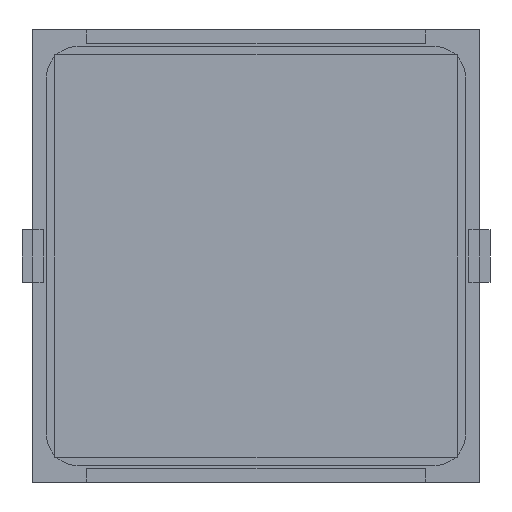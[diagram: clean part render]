
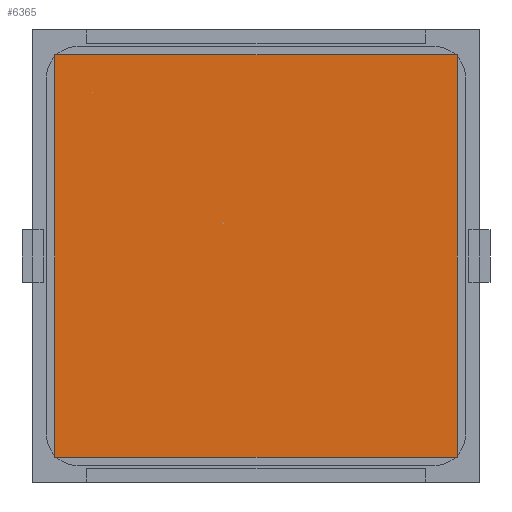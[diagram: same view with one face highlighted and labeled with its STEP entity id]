
A CAD part, front view. The second image highlights one B-rep face of the part: STEP entity #6365.
In plain terms, the highlighted planar face has unit normal (0, -1, 0).
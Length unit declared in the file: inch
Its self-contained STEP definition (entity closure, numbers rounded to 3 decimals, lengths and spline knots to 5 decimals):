
#206 = LINE ( 'NONE', #396, #13979 ) ;
#213 = EDGE_LOOP ( 'NONE', ( #10180, #8043, #9342, #9588 ) ) ;
#396 = CARTESIAN_POINT ( 'NONE',  ( 0.74803, -0.005, -0.74803 ) ) ;
#633 = FACE_OUTER_BOUND ( 'NONE', #213, .T. ) ;
#2009 = VECTOR ( 'NONE', #9691, 39.37008 ) ;
#2655 = DIRECTION ( 'NONE',  ( 0., -1., 0. ) ) ;
#3701 = PLANE ( 'NONE',  #16056 ) ;
#5087 = CARTESIAN_POINT ( 'NONE',  ( -0.74803, -0.005, -0.74803 ) ) ;
#5457 = DIRECTION ( 'NONE',  ( 0., 0., 1. ) ) ;
#6365 = ADVANCED_FACE ( 'NONE', ( #633 ), #3701, .T. ) ;
#6726 = DIRECTION ( 'NONE',  ( 0., 0., -1. ) ) ;
#6759 = VERTEX_POINT ( 'NONE', #14689 ) ;
#6777 = VECTOR ( 'NONE', #12719, 39.37008 ) ;
#6784 = CARTESIAN_POINT ( 'NONE',  ( 0.74803, -0.005, -0.74803 ) ) ;
#7983 = VERTEX_POINT ( 'NONE', #13426 ) ;
#8043 = ORIENTED_EDGE ( 'NONE', *, *, #11159, .T. ) ;
#8286 = CARTESIAN_POINT ( 'NONE',  ( -0.74803, -0.005, -0.74803 ) ) ;
#8322 = CARTESIAN_POINT ( 'NONE',  ( 0.74803, -0.005, 0.74803 ) ) ;
#8820 = EDGE_CURVE ( 'NONE', #16209, #15789, #12820, .T. ) ;
#9342 = ORIENTED_EDGE ( 'NONE', *, *, #18936, .T. ) ;
#9588 = ORIENTED_EDGE ( 'NONE', *, *, #8820, .T. ) ;
#9691 = DIRECTION ( 'NONE',  ( -1., 0., 0. ) ) ;
#10180 = ORIENTED_EDGE ( 'NONE', *, *, #17619, .T. ) ;
#11159 = EDGE_CURVE ( 'NONE', #6759, #7983, #18664, .T. ) ;
#11371 = CARTESIAN_POINT ( 'NONE',  ( 0.74803, -0.005, 0.74803 ) ) ;
#12454 = CARTESIAN_POINT ( 'NONE',  ( 0.74803, -0.005, -0.74803 ) ) ;
#12719 = DIRECTION ( 'NONE',  ( 1., 0., 0. ) ) ;
#12820 = LINE ( 'NONE', #6784, #6777 ) ;
#13426 = CARTESIAN_POINT ( 'NONE',  ( -0.74803, -0.005, 0.74803 ) ) ;
#13979 = VECTOR ( 'NONE', #16688, 39.37008 ) ;
#14689 = CARTESIAN_POINT ( 'NONE',  ( 0.74803, -0.005, 0.74803 ) ) ;
#15189 = LINE ( 'NONE', #5087, #15270 ) ;
#15270 = VECTOR ( 'NONE', #6726, 39.37008 ) ;
#15789 = VERTEX_POINT ( 'NONE', #12454 ) ;
#16056 = AXIS2_PLACEMENT_3D ( 'NONE', #11371, #2655, #5457 ) ;
#16209 = VERTEX_POINT ( 'NONE', #8286 ) ;
#16688 = DIRECTION ( 'NONE',  ( 0., 0., 1. ) ) ;
#17619 = EDGE_CURVE ( 'NONE', #15789, #6759, #206, .T. ) ;
#18664 = LINE ( 'NONE', #8322, #2009 ) ;
#18936 = EDGE_CURVE ( 'NONE', #7983, #16209, #15189, .T. ) ;
